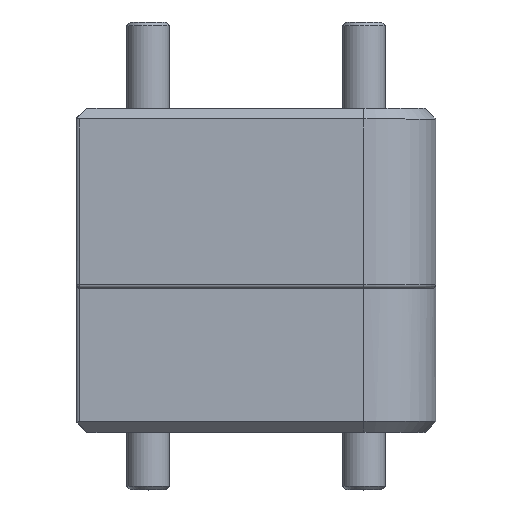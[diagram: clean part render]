
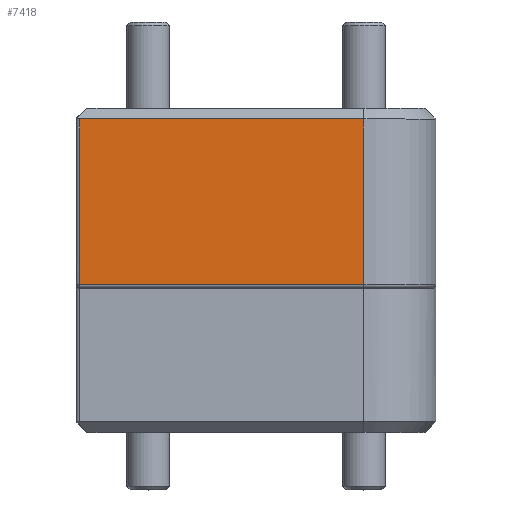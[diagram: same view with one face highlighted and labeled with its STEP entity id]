
A CAD part, top view. The second image highlights one B-rep face of the part: STEP entity #7418.
In plain terms, the highlighted planar face has unit normal (0, 0, 1) as drawn and (0, 1, 0) by its records, which use the part's own axes.
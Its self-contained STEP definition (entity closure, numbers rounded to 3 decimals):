
#550 = LINE ( 'NONE', #7570, #7376 ) ;
#962 = CARTESIAN_POINT ( 'NONE',  ( 40., 25., -0.5 ) ) ;
#1390 = VECTOR ( 'NONE', #6645, 1000. ) ;
#1413 = AXIS2_PLACEMENT_3D ( 'NONE', #7608, #4017, #2108 ) ;
#1946 = LINE ( 'NONE', #2975, #6302 ) ;
#2108 = DIRECTION ( 'NONE',  ( 0., 0., 1. ) ) ;
#2615 = EDGE_CURVE ( 'NONE', #11092, #9078, #10300, .T. ) ;
#2814 = DIRECTION ( 'NONE',  ( 0., 0., -1. ) ) ;
#2865 = ORIENTED_EDGE ( 'NONE', *, *, #2615, .T. ) ;
#2975 = CARTESIAN_POINT ( 'NONE',  ( 40., 25., -25. ) ) ;
#3230 = VERTEX_POINT ( 'NONE', #4020 ) ;
#3858 = CARTESIAN_POINT ( 'NONE',  ( 0.5, 25., -25. ) ) ;
#4017 = DIRECTION ( 'NONE',  ( 0., 1., 0. ) ) ;
#4020 = CARTESIAN_POINT ( 'NONE',  ( 0.5, 25., -23.5 ) ) ;
#5352 = LINE ( 'NONE', #3858, #1390 ) ;
#5648 = EDGE_CURVE ( 'NONE', #8050, #3230, #550, .T. ) ;
#5765 = DIRECTION ( 'NONE',  ( -1., 0., 0. ) ) ;
#6302 = VECTOR ( 'NONE', #2814, 1000. ) ;
#6442 = ORIENTED_EDGE ( 'NONE', *, *, #5648, .T. ) ;
#6638 = EDGE_CURVE ( 'NONE', #3230, #11092, #5352, .T. ) ;
#6645 = DIRECTION ( 'NONE',  ( 0., 0., 1. ) ) ;
#6661 = CARTESIAN_POINT ( 'NONE',  ( 0., 25., -0.5 ) ) ;
#7376 = VECTOR ( 'NONE', #5765, 1000. ) ;
#7418 = ADVANCED_FACE ( 'NONE', ( #11000 ), #8686, .T. ) ;
#7570 = CARTESIAN_POINT ( 'NONE',  ( 0., 25., -23.5 ) ) ;
#7608 = CARTESIAN_POINT ( 'NONE',  ( 0., 25., -25. ) ) ;
#8050 = VERTEX_POINT ( 'NONE', #11445 ) ;
#8061 = ORIENTED_EDGE ( 'NONE', *, *, #6638, .T. ) ;
#8342 = EDGE_LOOP ( 'NONE', ( #8061, #2865, #10838, #6442 ) ) ;
#8686 = PLANE ( 'NONE',  #1413 ) ;
#9078 = VERTEX_POINT ( 'NONE', #962 ) ;
#9331 = CARTESIAN_POINT ( 'NONE',  ( 0.5, 25., -0.5 ) ) ;
#10300 = LINE ( 'NONE', #6661, #10753 ) ;
#10753 = VECTOR ( 'NONE', #11244, 1000. ) ;
#10838 = ORIENTED_EDGE ( 'NONE', *, *, #11125, .T. ) ;
#11000 = FACE_OUTER_BOUND ( 'NONE', #8342, .T. ) ;
#11092 = VERTEX_POINT ( 'NONE', #9331 ) ;
#11125 = EDGE_CURVE ( 'NONE', #9078, #8050, #1946, .T. ) ;
#11244 = DIRECTION ( 'NONE',  ( 1., 0., 0. ) ) ;
#11445 = CARTESIAN_POINT ( 'NONE',  ( 40., 25., -23.5 ) ) ;
